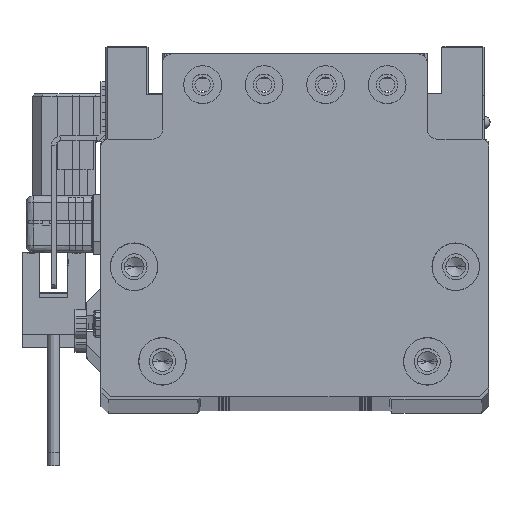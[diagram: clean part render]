
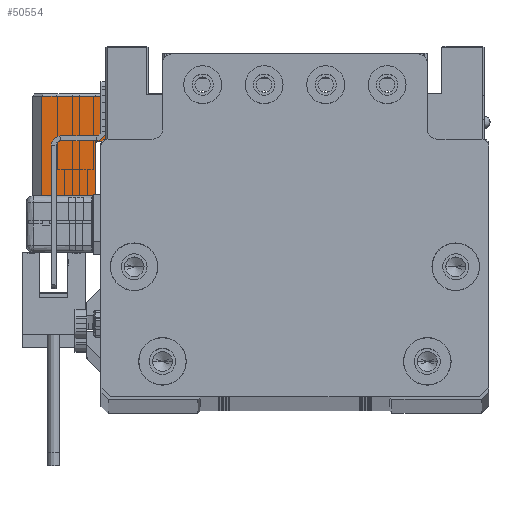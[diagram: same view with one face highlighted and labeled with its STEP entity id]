
A CAD part, top view. The second image highlights one B-rep face of the part: STEP entity #50554.
In plain terms, the highlighted planar face has unit normal (0, 0, 1) as drawn and (1, 0, 0) by its records, which use the part's own axes.
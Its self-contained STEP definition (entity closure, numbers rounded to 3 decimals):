
#1784 = CARTESIAN_POINT ( 'NONE',  ( 17., -10.75, -15.5 ) ) ;
#2256 = DIRECTION ( 'NONE',  ( 0., 0., 1. ) ) ;
#2373 = LINE ( 'NONE', #49020, #14007 ) ;
#3219 = VECTOR ( 'NONE', #57659, 1000. ) ;
#4462 = CARTESIAN_POINT ( 'NONE',  ( 17., 10.25, -15.5 ) ) ;
#4768 = EDGE_CURVE ( 'NONE', #40875, #44371, #58311, .T. ) ;
#9274 = CARTESIAN_POINT ( 'NONE',  ( 17., -10.75, -15.5 ) ) ;
#10161 = EDGE_CURVE ( 'NONE', #17333, #12982, #46654, .T. ) ;
#12410 = PLANE ( 'NONE',  #54117 ) ;
#12442 = EDGE_CURVE ( 'NONE', #32864, #34694, #20026, .T. ) ;
#12982 = VERTEX_POINT ( 'NONE', #26104 ) ;
#13089 = DIRECTION ( 'NONE',  ( 0., 0., -1. ) ) ;
#13729 = LINE ( 'NONE', #4462, #16281 ) ;
#14007 = VECTOR ( 'NONE', #23278, 1000. ) ;
#15816 = CARTESIAN_POINT ( 'NONE',  ( 17., -10.75, -2. ) ) ;
#16281 = VECTOR ( 'NONE', #30866, 1000. ) ;
#17312 = EDGE_CURVE ( 'NONE', #12982, #40875, #13729, .T. ) ;
#17333 = VERTEX_POINT ( 'NONE', #57619 ) ;
#20026 = LINE ( 'NONE', #51951, #56347 ) ;
#22117 = ORIENTED_EDGE ( 'NONE', *, *, #4768, .T. ) ;
#23278 = DIRECTION ( 'NONE',  ( 0., 0., 1. ) ) ;
#23332 = CARTESIAN_POINT ( 'NONE',  ( 17., -10.75, -2. ) ) ;
#23503 = CARTESIAN_POINT ( 'NONE',  ( 17., 0.75, -15.5 ) ) ;
#26104 = CARTESIAN_POINT ( 'NONE',  ( 17., 10.25, -15.5 ) ) ;
#26515 = DIRECTION ( 'NONE',  ( 0., -1., 0. ) ) ;
#27140 = ORIENTED_EDGE ( 'NONE', *, *, #17312, .T. ) ;
#30866 = DIRECTION ( 'NONE',  ( 0., 0., 1. ) ) ;
#32003 = ORIENTED_EDGE ( 'NONE', *, *, #10161, .T. ) ;
#32864 = VERTEX_POINT ( 'NONE', #52023 ) ;
#34694 = VERTEX_POINT ( 'NONE', #37841 ) ;
#37841 = CARTESIAN_POINT ( 'NONE',  ( 17., -10.75, -13.3 ) ) ;
#40875 = VERTEX_POINT ( 'NONE', #64206 ) ;
#41291 = EDGE_CURVE ( 'NONE', #34694, #44371, #2373, .T. ) ;
#44371 = VERTEX_POINT ( 'NONE', #23332 ) ;
#46296 = ORIENTED_EDGE ( 'NONE', *, *, #12442, .F. ) ;
#46654 = LINE ( 'NONE', #9274, #51710 ) ;
#48922 = ORIENTED_EDGE ( 'NONE', *, *, #41291, .F. ) ;
#49020 = CARTESIAN_POINT ( 'NONE',  ( 17., -10.75, -15.5 ) ) ;
#50554 = ADVANCED_FACE ( 'NONE', ( #65240 ), #12410, .T. ) ;
#51472 = DIRECTION ( 'NONE',  ( 0., 1., 0. ) ) ;
#51710 = VECTOR ( 'NONE', #51472, 1000. ) ;
#51951 = CARTESIAN_POINT ( 'NONE',  ( 17., -10.75, -13.3 ) ) ;
#52023 = CARTESIAN_POINT ( 'NONE',  ( 17., 0.75, -13.3 ) ) ;
#54117 = AXIS2_PLACEMENT_3D ( 'NONE', #1784, #63891, #13089 ) ;
#56347 = VECTOR ( 'NONE', #26515, 1000. ) ;
#57619 = CARTESIAN_POINT ( 'NONE',  ( 17., 0.75, -15.5 ) ) ;
#57659 = DIRECTION ( 'NONE',  ( 0., -1., 0. ) ) ;
#58311 = LINE ( 'NONE', #15816, #3219 ) ;
#59538 = LINE ( 'NONE', #23503, #64829 ) ;
#62077 = EDGE_LOOP ( 'NONE', ( #32003, #27140, #22117, #48922, #46296, #63026 ) ) ;
#62665 = EDGE_CURVE ( 'NONE', #17333, #32864, #59538, .T. ) ;
#63026 = ORIENTED_EDGE ( 'NONE', *, *, #62665, .F. ) ;
#63891 = DIRECTION ( 'NONE',  ( 1., 0., 0. ) ) ;
#64206 = CARTESIAN_POINT ( 'NONE',  ( 17., 10.25, -2. ) ) ;
#64829 = VECTOR ( 'NONE', #2256, 1000. ) ;
#65240 = FACE_OUTER_BOUND ( 'NONE', #62077, .T. ) ;
